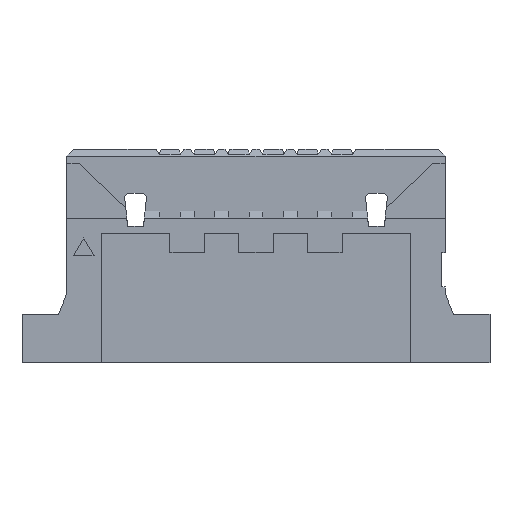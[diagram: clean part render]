
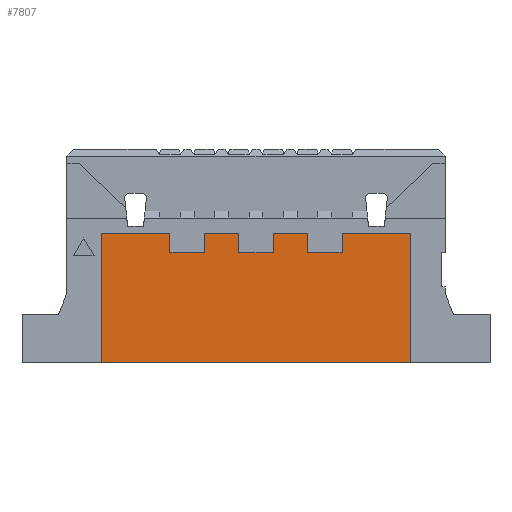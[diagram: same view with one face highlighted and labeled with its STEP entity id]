
A CAD part, top view. The second image highlights one B-rep face of the part: STEP entity #7807.
In plain terms, the highlighted planar face has unit normal (0, 0, 1).
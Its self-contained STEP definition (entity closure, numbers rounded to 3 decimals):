
#408 = CARTESIAN_POINT ( 'NONE',  ( 1.25, -0.3, 0.675 ) ) ;
#429 = CARTESIAN_POINT ( 'NONE',  ( -2.25, -1.9, 0.675 ) ) ;
#439 = CARTESIAN_POINT ( 'NONE',  ( 0.75, -0.02, 0.675 ) ) ;
#471 = CARTESIAN_POINT ( 'NONE',  ( -0.25, -0.3, 0.675 ) ) ;
#1502 = EDGE_LOOP ( 'NONE', ( #1680, #1663, #1669, #1666, #1672, #1667, #1676, #1661, #1658, #1675, #1681, #1673, #1674, #1679, #1678, #1682 ) ) ;
#1658 = ORIENTED_EDGE ( 'NONE', *, *, #5813, .F. ) ;
#1661 = ORIENTED_EDGE ( 'NONE', *, *, #5814, .F. ) ;
#1663 = ORIENTED_EDGE ( 'NONE', *, *, #5806, .T. ) ;
#1666 = ORIENTED_EDGE ( 'NONE', *, *, #5808, .F. ) ;
#1667 = ORIENTED_EDGE ( 'NONE', *, *, #5810, .T. ) ;
#1669 = ORIENTED_EDGE ( 'NONE', *, *, #5786, .F. ) ;
#1672 = ORIENTED_EDGE ( 'NONE', *, *, #5809, .F. ) ;
#1673 = ORIENTED_EDGE ( 'NONE', *, *, #5815, .T. ) ;
#1674 = ORIENTED_EDGE ( 'NONE', *, *, #5825, .T. ) ;
#1675 = ORIENTED_EDGE ( 'NONE', *, *, #5812, .T. ) ;
#1676 = ORIENTED_EDGE ( 'NONE', *, *, #5811, .F. ) ;
#1678 = ORIENTED_EDGE ( 'NONE', *, *, #5819, .F. ) ;
#1679 = ORIENTED_EDGE ( 'NONE', *, *, #5823, .T. ) ;
#1680 = ORIENTED_EDGE ( 'NONE', *, *, #5807, .F. ) ;
#1681 = ORIENTED_EDGE ( 'NONE', *, *, #5818, .T. ) ;
#1682 = ORIENTED_EDGE ( 'NONE', *, *, #5820, .F. ) ;
#2096 = PLANE ( 'NONE',  #8158 ) ;
#2097 = CARTESIAN_POINT ( 'NONE',  ( 0., 0., 0.675 ) ) ;
#2102 = DIRECTION ( 'NONE',  ( 0., 0., 1. ) ) ;
#2103 = DIRECTION ( 'NONE',  ( 1., 0., 0. ) ) ;
#3020 = CARTESIAN_POINT ( 'NONE',  ( -1.25, -0.02, 0.675 ) ) ;
#3025 = CARTESIAN_POINT ( 'NONE',  ( -2.25, -0.02, 0.675 ) ) ;
#3082 = CARTESIAN_POINT ( 'NONE',  ( 2.25, -0.02, 0.675 ) ) ;
#3100 = CARTESIAN_POINT ( 'NONE',  ( 2.25, -1.9, 0.675 ) ) ;
#3101 = CARTESIAN_POINT ( 'NONE',  ( 0.25, -0.02, 0.675 ) ) ;
#3114 = CARTESIAN_POINT ( 'NONE',  ( -0.75, -0.3, 0.675 ) ) ;
#3135 = CARTESIAN_POINT ( 'NONE',  ( 0.25, -0.3, 0.675 ) ) ;
#3218 = CARTESIAN_POINT ( 'NONE',  ( -0.75, -0.02, 0.675 ) ) ;
#3229 = CARTESIAN_POINT ( 'NONE',  ( -0.25, -0.02, 0.675 ) ) ;
#3251 = CARTESIAN_POINT ( 'NONE',  ( 1.25, -0.02, 0.675 ) ) ;
#3287 = CARTESIAN_POINT ( 'NONE',  ( -1.25, -0.3, 0.675 ) ) ;
#3316 = CARTESIAN_POINT ( 'NONE',  ( 0.75, -0.3, 0.675 ) ) ;
#3519 = CARTESIAN_POINT ( 'NONE',  ( 2.25, -0.02, 0.675 ) ) ;
#3524 = DIRECTION ( 'NONE',  ( 1., 0., 0. ) ) ;
#3530 = CARTESIAN_POINT ( 'NONE',  ( 0.75, -0.02, 0.675 ) ) ;
#3534 = CARTESIAN_POINT ( 'NONE',  ( -0.25, -0.3, 0.675 ) ) ;
#3535 = CARTESIAN_POINT ( 'NONE',  ( 2.25, -0.02, 0.675 ) ) ;
#3537 = CARTESIAN_POINT ( 'NONE',  ( 2.25, -0.02, 0.675 ) ) ;
#3539 = DIRECTION ( 'NONE',  ( 0., -1., 0. ) ) ;
#3547 = DIRECTION ( 'NONE',  ( 0., 1., 0. ) ) ;
#3549 = CARTESIAN_POINT ( 'NONE',  ( -1.25, -0.3, 0.675 ) ) ;
#3551 = CARTESIAN_POINT ( 'NONE',  ( 0.25, -0.02, 0.675 ) ) ;
#3553 = DIRECTION ( 'NONE',  ( 0., -1., 0. ) ) ;
#3554 = CARTESIAN_POINT ( 'NONE',  ( -0.75, -0.02, 0.675 ) ) ;
#3556 = DIRECTION ( 'NONE',  ( -1., 0., 0. ) ) ;
#3559 = CARTESIAN_POINT ( 'NONE',  ( -2.25, -1.9, 0.675 ) ) ;
#3561 = CARTESIAN_POINT ( 'NONE',  ( -0.25, -0.02, 0.675 ) ) ;
#3567 = DIRECTION ( 'NONE',  ( -1., 0., 0. ) ) ;
#3568 = DIRECTION ( 'NONE',  ( 0., 1., 0. ) ) ;
#3569 = DIRECTION ( 'NONE',  ( -1., 0., 0. ) ) ;
#3570 = CARTESIAN_POINT ( 'NONE',  ( -1.25, -0.02, 0.675 ) ) ;
#3572 = DIRECTION ( 'NONE',  ( 0., -1., 0. ) ) ;
#3573 = DIRECTION ( 'NONE',  ( 1., 0., 0. ) ) ;
#3574 = CARTESIAN_POINT ( 'NONE',  ( 0.75, -0.3, 0.675 ) ) ;
#3577 = CARTESIAN_POINT ( 'NONE',  ( -2.25, -0.02, 0.675 ) ) ;
#3578 = DIRECTION ( 'NONE',  ( 1., 0., 0. ) ) ;
#3580 = CARTESIAN_POINT ( 'NONE',  ( 1.25, -0.02, 0.675 ) ) ;
#3582 = DIRECTION ( 'NONE',  ( 0., -1., 0. ) ) ;
#3583 = CARTESIAN_POINT ( 'NONE',  ( 2.25, -0.02, 0.675 ) ) ;
#3584 = DIRECTION ( 'NONE',  ( 0., 1., 0. ) ) ;
#3585 = DIRECTION ( 'NONE',  ( 1., 0., 0. ) ) ;
#3684 = DIRECTION ( 'NONE',  ( -1., 0., 0. ) ) ;
#3885 = CARTESIAN_POINT ( 'NONE',  ( 2.25, -1.9, 0.675 ) ) ;
#3918 = DIRECTION ( 'NONE',  ( 0., 1., 0. ) ) ;
#4106 = FACE_OUTER_BOUND ( 'NONE', #1502, .T. ) ;
#5272 = LINE ( 'NONE', #3554, #5297 ) ;
#5273 = LINE ( 'NONE', #3570, #5295 ) ;
#5275 = VECTOR ( 'NONE', #3569, 1000. ) ;
#5276 = VECTOR ( 'NONE', #3578, 1000. ) ;
#5277 = VECTOR ( 'NONE', #3918, 1000. ) ;
#5279 = VECTOR ( 'NONE', #3684, 1000. ) ;
#5282 = LINE ( 'NONE', #3535, #5275 ) ;
#5285 = VECTOR ( 'NONE', #3584, 1000. ) ;
#5286 = LINE ( 'NONE', #3583, #5279 ) ;
#5290 = VECTOR ( 'NONE', #3582, 1000. ) ;
#5291 = VECTOR ( 'NONE', #3553, 1000. ) ;
#5292 = VECTOR ( 'NONE', #3573, 1000. ) ;
#5293 = VECTOR ( 'NONE', #3585, 1000. ) ;
#5294 = LINE ( 'NONE', #3559, #5276 ) ;
#5295 = VECTOR ( 'NONE', #3572, 1000. ) ;
#5296 = LINE ( 'NONE', #3577, #5290 ) ;
#5297 = VECTOR ( 'NONE', #3568, 1000. ) ;
#5299 = LINE ( 'NONE', #3549, #5292 ) ;
#5300 = VECTOR ( 'NONE', #3556, 1000. ) ;
#5310 = LINE ( 'NONE', #3885, #5277 ) ;
#5316 = LINE ( 'NONE', #3580, #5285 ) ;
#5320 = LINE ( 'NONE', #3574, #5293 ) ;
#5326 = VECTOR ( 'NONE', #3524, 1000. ) ;
#5331 = LINE ( 'NONE', #3561, #5291 ) ;
#5332 = VECTOR ( 'NONE', #3539, 1000. ) ;
#5333 = LINE ( 'NONE', #3519, #5300 ) ;
#5340 = LINE ( 'NONE', #3551, #5579 ) ;
#5349 = LINE ( 'NONE', #3534, #5326 ) ;
#5363 = LINE ( 'NONE', #3537, #5364 ) ;
#5364 = VECTOR ( 'NONE', #3567, 1000. ) ;
#5366 = LINE ( 'NONE', #3530, #5332 ) ;
#5579 = VECTOR ( 'NONE', #3547, 1000. ) ;
#5786 = EDGE_CURVE ( 'NONE', #6821, #6771, #5340, .T. ) ;
#5806 = EDGE_CURVE ( 'NONE', #6381, #6771, #5363, .T. ) ;
#5807 = EDGE_CURVE ( 'NONE', #6381, #7262, #5366, .T. ) ;
#5808 = EDGE_CURVE ( 'NONE', #6584, #6821, #5349, .T. ) ;
#5809 = EDGE_CURVE ( 'NONE', #6999, #6584, #5331, .T. ) ;
#5810 = EDGE_CURVE ( 'NONE', #6999, #6979, #5333, .T. ) ;
#5811 = EDGE_CURVE ( 'NONE', #6792, #6979, #5272, .T. ) ;
#5812 = EDGE_CURVE ( 'NONE', #6635, #6640, #5282, .T. ) ;
#5813 = EDGE_CURVE ( 'NONE', #6635, #7232, #5273, .T. ) ;
#5814 = EDGE_CURVE ( 'NONE', #7232, #6792, #5299, .T. ) ;
#5815 = EDGE_CURVE ( 'NONE', #6569, #6769, #5294, .T. ) ;
#5818 = EDGE_CURVE ( 'NONE', #6640, #6569, #5296, .T. ) ;
#5819 = EDGE_CURVE ( 'NONE', #6573, #7036, #5316, .T. ) ;
#5820 = EDGE_CURVE ( 'NONE', #7262, #6573, #5320, .T. ) ;
#5823 = EDGE_CURVE ( 'NONE', #6742, #7036, #5286, .T. ) ;
#5825 = EDGE_CURVE ( 'NONE', #6769, #6742, #5310, .T. ) ;
#6381 = VERTEX_POINT ( 'NONE', #439 ) ;
#6569 = VERTEX_POINT ( 'NONE', #429 ) ;
#6573 = VERTEX_POINT ( 'NONE', #408 ) ;
#6584 = VERTEX_POINT ( 'NONE', #471 ) ;
#6635 = VERTEX_POINT ( 'NONE', #3020 ) ;
#6640 = VERTEX_POINT ( 'NONE', #3025 ) ;
#6742 = VERTEX_POINT ( 'NONE', #3082 ) ;
#6769 = VERTEX_POINT ( 'NONE', #3100 ) ;
#6771 = VERTEX_POINT ( 'NONE', #3101 ) ;
#6792 = VERTEX_POINT ( 'NONE', #3114 ) ;
#6821 = VERTEX_POINT ( 'NONE', #3135 ) ;
#6979 = VERTEX_POINT ( 'NONE', #3218 ) ;
#6999 = VERTEX_POINT ( 'NONE', #3229 ) ;
#7036 = VERTEX_POINT ( 'NONE', #3251 ) ;
#7232 = VERTEX_POINT ( 'NONE', #3287 ) ;
#7262 = VERTEX_POINT ( 'NONE', #3316 ) ;
#7807 = ADVANCED_FACE ( 'NONE', ( #4106 ), #2096, .T. ) ;
#8158 = AXIS2_PLACEMENT_3D ( 'NONE', #2097, #2102, #2103 ) ;
